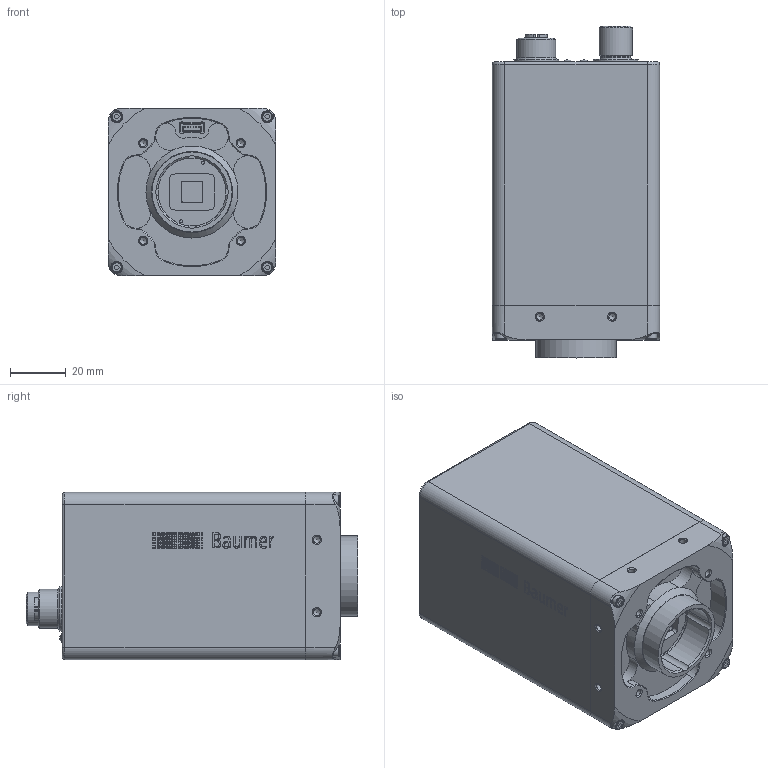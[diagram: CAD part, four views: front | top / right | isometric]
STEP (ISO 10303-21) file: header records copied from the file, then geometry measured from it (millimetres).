
FILE_DESCRIPTION(/* description */ ('CAx-IF Rec.Pracs.---Representation and Presentation of Product Manufacturing Information (PMI)---4.0---2014-10-13','CAx-IF Rec.Pracs.---3D Tessellated Geometry---0.4---2014-09-14','2;1'),/* implementation_level */ '2;1');
FILE_NAME(/* name */ '11704864',/* time_stamp */ '2025-03-27T15:09:22+01:00',/* author */ (''),/* organization */ ('Baumer'),/* preprocessor_version */ 'ST-DEVELOPER v19.4',/* originating_system */ 'Solid Edge',/* authorisation */ 'Unknown');
FILE_SCHEMA (('AP242_MANAGED_MODEL_BASED_3D_ENGINEERING_MIM_LF { 1 0 10303 442 3 1 4 }','AP242_MANAGED_MODEL_BASED_3D_ENGINEERING_MIM_LF { 1 0 10303 442 1 1 4 }'));
Length unit declared in the file: millimetre
Products named in the file (1): 11704864
Bounding box: 60 x 118.97 x 60 mm (x, y, z)
Volume: 347203.9 mm3; surface area: 39326.3 mm2
Topology: 1 solids, 6 shells, 1475 faces, 3260 edges, 2134 vertices
Faces by surface type: plane 643, cylinder 615, torus 70, cone 67, bspline 64, sphere 16
Full cylindrical faces by diameter (mm): 0.306 x20, 0.385 x20, 0.464 x20, 0.542 x20, 0.621 x20, 0.63 x12, 0.699 x20, 0.7 x8, 0.778 x20, 0.856 x20, 1.1 x2, 1.24 x8, 2 x4, 2.4 x4, 2.459 x28, 3.4 x2, 3.8 x4, 4.975 x2, 8 x2, 8.25 x1, 8.3 x1, 8.4 x1, 9 x1, 9.3 x2, 9.4 x2, 10.75 x1, 12 x3, 14 x1, 16 x2, 28.7 x1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
Entity records: 53589 total; most frequent: CARTESIAN_POINT 11767, DIRECTION 6797, ORIENTED_EDGE 5616, EDGE_CURVE 2808, AXIS2_PLACEMENT_3D 2780, FACE_BOUND 2199, EDGE_LOOP 2170, VERTEX_POINT 2059
